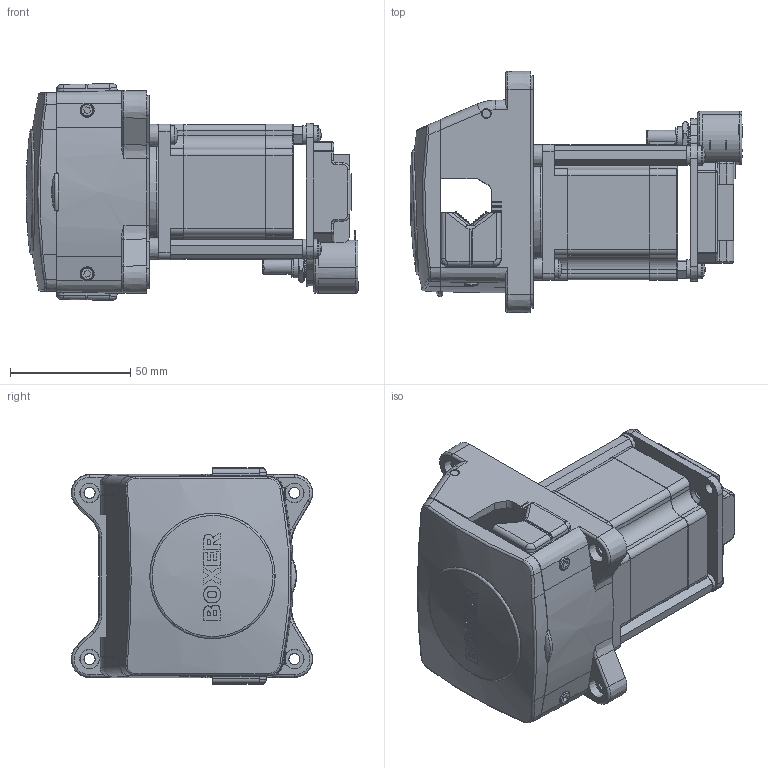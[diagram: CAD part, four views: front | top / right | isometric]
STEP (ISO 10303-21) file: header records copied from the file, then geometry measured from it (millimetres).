
FILE_DESCRIPTION (( 'STEP AP214' ), '1' );
FILE_NAME ('30151(2).000_30KS_short_A4p_external.STEP', '2022-02-14T16:46:08', ( '' ), ( '' ), 'SwSTEP 2.0', 'SolidWorks 2021', '' );
FILE_SCHEMA (( 'AUTOMOTIVE_DESIGN' ));
Length unit declared in the file: millimetre
Products named in the file (1): 30151(2).000_30KS_short_A4p_external
Bounding box: 137.84 x 100.29 x 89.97 mm (x, y, z)
Volume: 319000.4 mm3; surface area: 115468.8 mm2
Topology: 29 solids, 29 shells, 2260 faces, 5633 edges, 3504 vertices
Faces by surface type: plane 941, cylinder 606, bspline 299, cone 166, torus 134, sphere 114
Full cylindrical faces by diameter (mm): 2.5 x2, 2.6 x4, 3 x2, 3.2 x2, 3.4 x4, 3.5 x8, 4 x14, 4.05 x2, 4.5 x3, 4.517 x4, 5 x5, 5.33 x1, 5.45 x2, 6.33 x2, 6.35 x1, 6.5 x4, 8 x8, 8.06 x1, 9 x1, 9.35 x1, 9.95 x1, 10.3 x1, 14.22 x1, 16.5 x1, 18 x1, 22 x1, 22.22 x1, 38 x1, 52 x1
Entity records: 85569 total; most frequent: CARTESIAN_POINT 29042, ORIENTED_EDGE 10852, DIRECTION 9907, EDGE_CURVE 5426, AXIS2_PLACEMENT_3D 3636, VERTEX_POINT 3456, LINE 2635, VECTOR 2635
